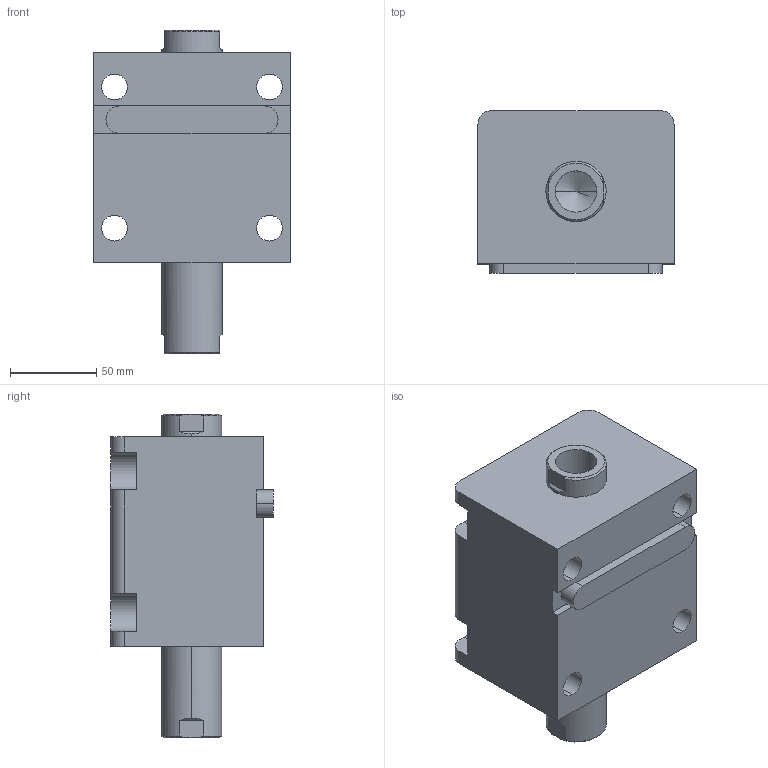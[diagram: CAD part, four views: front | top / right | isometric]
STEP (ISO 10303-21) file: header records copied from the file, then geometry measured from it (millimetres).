
FILE_DESCRIPTION (( 'STEP AP203' ), '1' );
FILE_NAME ('HTB-LW63-40N.STEP', '2019-10-09T08:25:42', ( '微软用户' ), ( '微软中国' ), 'SwSTEP 2.0', 'SolidWorks 2012', '' );
FILE_SCHEMA (( 'CONFIG_CONTROL_DESIGN' ));
Length unit declared in the file: millimetre
Products named in the file (4): HTB-LW63-40N; HTB-LA63-瑩; HTB-LW63-40N活塞杆; HTB-LW63-40掛极
Assembly tree (3 placements, depth 2):
  HTB-LW63-40N
    HTB-LW63-40掛极
    HTB-LW63-40N活塞杆
    HTB-LA63-瑩
Bounding box: 114 x 94.5 x 188 mm (x, y, z)
Volume: 1100713.6 mm3; surface area: 146107 mm2
Topology: 3 solids, 3 shells, 101 faces, 253 edges, 164 vertices
Faces by surface type: plane 44, cylinder 41, cone 12, torus 4
Entity records: 3467 total; most frequent: CARTESIAN_POINT 576, DIRECTION 549, ORIENTED_EDGE 498, EDGE_CURVE 249, AXIS2_PLACEMENT_3D 209, VERTEX_POINT 164, LINE 131, VECTOR 131
